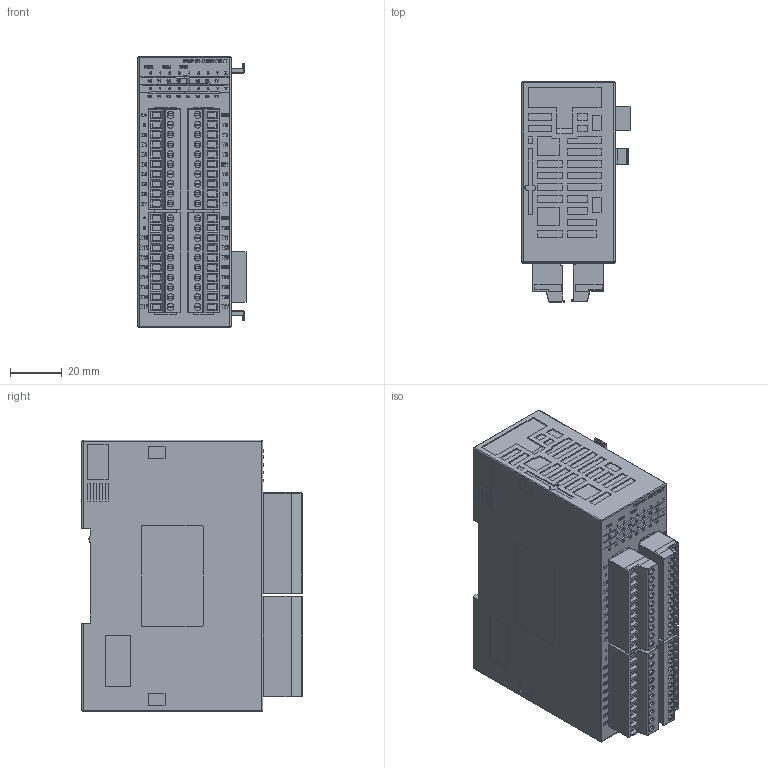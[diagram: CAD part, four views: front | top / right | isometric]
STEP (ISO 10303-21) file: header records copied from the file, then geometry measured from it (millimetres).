
FILE_DESCRIPTION(('STEP AP242'), '1');
FILE_NAME('PMP-01-E16PX16YT', '2025-08-18T11:49:20', ('PROMPOWER'), (''), 'C3D Converter', 'C3D Toolkit', '');
FILE_SCHEMA(('AP242_MANAGED_MODEL_BASED_3D_ENGINEERING_MIM_LF { 1 0 10303 442 1 1 4 }'));
Length unit declared in the file: millimetre
Products named in the file (1): PMP-01-E16PX16YT
Bounding box: 41.8 x 85.17 x 105 mm (x, y, z)
Surface area: 43536.7 mm2
Topology: 16 solids, 173 shells, 2803 faces, 23923 edges, 21502 vertices
Faces by surface type: plane 1982, bspline 370, cylinder 324, extrusion 127
Full cylindrical faces by diameter (mm): 2.6 x40, 2.85 x36
Entity records: 293652 total; most frequent: CARTESIAN_POINT 139361, ORIENTED_EDGE 30384, EDGE_CURVE 23811, VERTEX_POINT 21534, B_SPLINE_CURVE_WITH_KNOTS 18418, DIRECTION 11010, VECTOR 4842, LINE 4715
